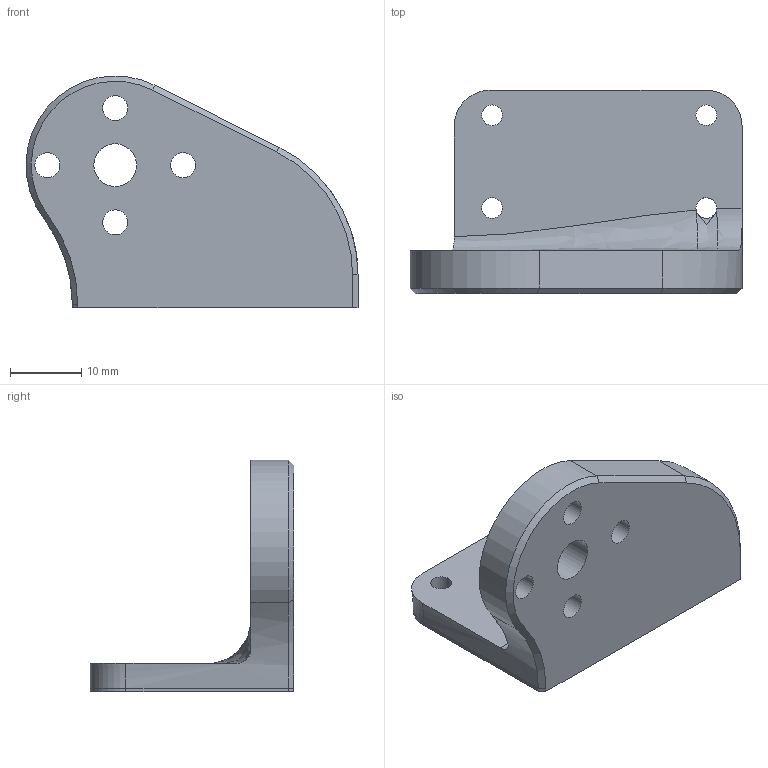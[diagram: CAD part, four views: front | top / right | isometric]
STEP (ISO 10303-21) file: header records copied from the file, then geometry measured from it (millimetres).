
FILE_DESCRIPTION( ( '' ), ' ' );
FILE_NAME( '/vol/tmp/translate-8018999856238411707/5b317fc13f476d1102fc8100.step', '2018-06-25T23:50:25', ( '' ), ( '' ), ' ', ' ', ' ' );
FILE_SCHEMA( ( 'AUTOMOTIVE_DESIGN { 1 0 10303 214 1 1 1 1 }' ) );
Length unit declared in the file: metre
Products named in the file (1): Offset MM
Bounding box: 46.5 x 28.5 x 32.49 mm (x, y, z)
Volume: 10019.1 mm3; surface area: 5257.8 mm2
Topology: 1 solids, 1 shells, 32 faces, 90 edges, 59 vertices
Faces by surface type: cylinder 14, plane 11, cone 3, bspline 3, torus 1
Full cylindrical faces by diameter (mm): 2.9 x4, 3.5 x4, 6 x1
Entity records: 1596 total; most frequent: CARTESIAN_POINT 543, DIRECTION 156, ORIENTED_EDGE 150, EDGE_CURVE 75, AXIS2_PLACEMENT_3D 63, EDGE_LOOP 58, VERTEX_POINT 53, FACE_OUTER_BOUND 41
